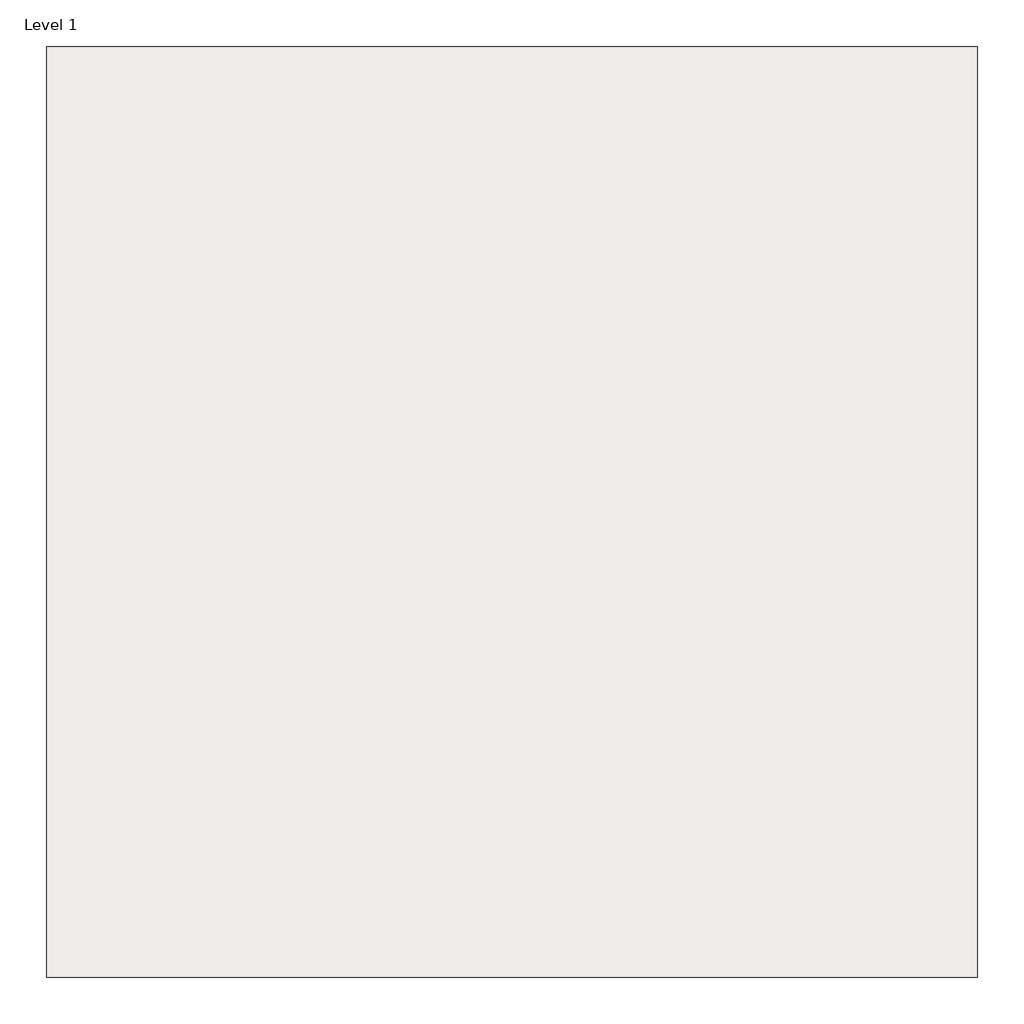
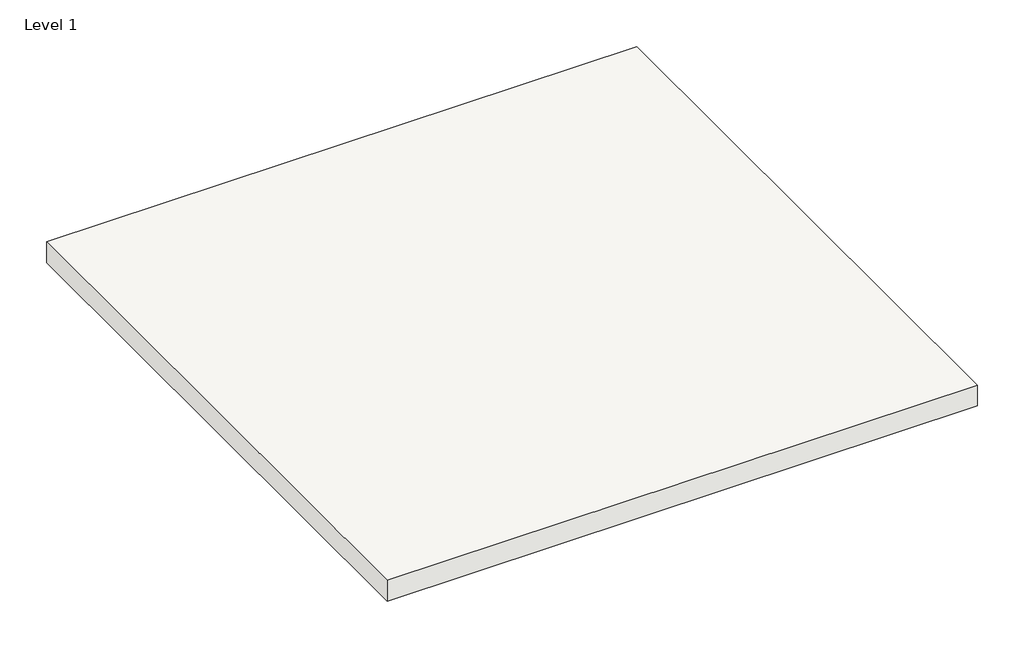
# One storey: 1 covering.
"""IFC4 building model written with IfcOpenShell, lengths in millimetres."""

import ifcopenshell
import ifcopenshell.guid

model = None  # the IFC model being written
_history = None  # IfcOwnerHistory: only IFC2X3 demands one
_inside = {}  # id of a spatial element -> (the spatial element, [elements in it])
_under = {}  # id of a project, library or spatial element -> (it, [spatial elements below it])
_declared = {}  # id of a project -> (the project, [libraries it declares])
_typed = {}  # id of a type object -> (the type object, [elements of that type])
_made_of = {}  # id of a material, layer set ... -> (it, [elements and type objects made of it])


def new_model(schema):
    """Start an empty IFC model of exactly this schema.

    Asked for "IFC4X3", IfcOpenShell would pick the latest addendum, in which some entities
    have other attributes; the version numbers below select the first issue.
    IFC2X3 requires an IfcOwnerHistory on every rooted entity: one is made here for all.
    """
    global model, _history
    if schema == "IFC4X3":
        model = ifcopenshell.file(schema_version=(4, 3, 0, 0))
    else:
        model = ifcopenshell.file(schema=schema)
    _inside.clear()
    _under.clear()
    _declared.clear()
    _typed.clear()
    _made_of.clear()
    _history = None
    if model.schema == "IFC2X3":
        org = make("IfcOrganization", Name="unknown")
        user = make(
            "IfcPersonAndOrganization",
            ThePerson=make("IfcPerson", FamilyName="unknown"),
            TheOrganization=org,
        )
        app = make(
            "IfcApplication",
            ApplicationDeveloper=org,
            Version="unknown",
            ApplicationFullName="unknown",
            ApplicationIdentifier="unknown",
        )
        _history = make(
            "IfcOwnerHistory",
            OwningUser=user,
            OwningApplication=app,
            ChangeAction="ADDED",
            CreationDate=0,
        )
    return model


def make(cls, **values):
    """One entity of the class cls with the attributes given. An attribute that is None is left unset."""
    return model.create_entity(
        cls, **{name: value for name, value in values.items() if value is not None}
    )


def rooted(cls, **values):
    """An entity with a GlobalId (a new one), such as an element, a storey or a relation."""
    return make(cls, GlobalId=ifcopenshell.guid.new(), OwnerHistory=_history, **values)


def si_unit(unit_type, name, prefix=None):
    """IfcSIUnit, for example si_unit("LENGTHUNIT", "METRE", prefix="MILLI")."""
    return make("IfcSIUnit", UnitType=unit_type, Prefix=prefix, Name=name)


def assignment(units):
    """IfcUnitAssignment: the units of a project."""
    return None if units is None else make("IfcUnitAssignment", Units=units)


def point(xyz):
    """IfcCartesianPoint."""
    return None if xyz is None else make("IfcCartesianPoint", Coordinates=xyz)


def direction(xyz):
    """IfcDirection."""
    return None if xyz is None else make("IfcDirection", DirectionRatios=xyz)


def frame(location, z_axis=None, x_axis=None):
    """IfcAxis2Placement3D, a coordinate frame: its origin and axes. An axis left out is left unset."""
    return make(
        "IfcAxis2Placement3D",
        Location=point(location),
        Axis=direction(z_axis),
        RefDirection=direction(x_axis),
    )


def origin():
    """The frame at (0, 0, 0) with its axes left unset."""
    return frame((0.0, 0.0, 0.0))


def origin_with_axes():
    """The frame at (0, 0, 0) with the z axis (0, 0, 1) and the x axis (1, 0, 0) written out."""
    return frame((0.0, 0.0, 0.0), z_axis=(0.0, 0.0, 1.0), x_axis=(1.0, 0.0, 0.0))


def place(relative_to, where):
    """IfcLocalPlacement: puts the frame where relative to a parent placement (None: the world)."""
    return make(
        "IfcLocalPlacement", PlacementRelTo=relative_to, RelativePlacement=where
    )


def context(
    kind, dimensions, precision=None, world=None, true_north=None, identifier=None
):
    """IfcGeometricRepresentationContext, for example the 3D "Model" context."""
    return make(
        "IfcGeometricRepresentationContext",
        ContextIdentifier=identifier,
        ContextType=kind,
        CoordinateSpaceDimension=dimensions,
        Precision=precision,
        WorldCoordinateSystem=world,
        TrueNorth=true_north,
    )


def project(units=None, contexts=None):
    """IfcProject with its units and contexts."""
    return rooted(
        "IfcProject",
        Name="project",
        RepresentationContexts=contexts,
        UnitsInContext=assignment(units),
    )


def spatial(cls, under=None, at=None, **own):
    """A site, building, storey or space (cls), placed at a placement, below another one or the project."""
    s = rooted(cls, ObjectPlacement=at, **own)
    if under is not None:
        _under.setdefault(under.id(), (under, []))[1].append(s)
    return s


def polyline(points):
    """IfcPolyline through the points."""
    return make("IfcPolyline", Points=[point(p) for p in points])


def outline(outer, holes=None, kind="AREA"):
    """IfcArbitraryClosedProfileDef: a profile drawn as a closed curve; with holes, ...WithVoids."""
    if holes is None:
        return make("IfcArbitraryClosedProfileDef", ProfileType=kind, OuterCurve=outer)
    return make(
        "IfcArbitraryProfileDefWithVoids",
        ProfileType=kind,
        OuterCurve=outer,
        InnerCurves=holes,
    )


def extrude(swept, where, along, depth):
    """IfcExtrudedAreaSolid: the profile swept, set in the frame where, extruded along a direction by depth."""
    return make(
        "IfcExtrudedAreaSolid",
        SweptArea=swept,
        Position=where,
        ExtrudedDirection=direction(along),
        Depth=depth,
    )


def shape(context_of_items, identifier, shape_type, items):
    """IfcShapeRepresentation: the items that make up one representation, for example the "Body"."""
    return make(
        "IfcShapeRepresentation",
        ContextOfItems=context_of_items,
        RepresentationIdentifier=identifier,
        RepresentationType=shape_type,
        Items=items,
    )


def made_of(thing, what):
    """Note that an element or type object is made of a material, layer set ...; save() writes the relation."""
    if what is not None:
        _made_of.setdefault(what.id(), (what, []))[1].append(thing)
    return thing


def element(
    cls,
    number,
    at=None,
    inside=None,
    cuts=None,
    type_object=None,
    material=None,
    context=None,
    identifier="Body",
    shape_type=None,
    held_by="IfcProductDefinitionShape",
    body=None,
    shapes=None,
    **own,
):
    """One element of the class cls, such as IfcWall. Its Tag is "e" and its number.

    at: its placement. inside: the storey or other place that contains it. cuts: it is an
    opening in that element (IfcRelVoidsElement). A single representation is given by context,
    identifier, shape_type and body (its items); several are given by shapes. held_by: the class
    of the entity that holds the representations. save() writes the other relations.
    """
    e = rooted(cls, Tag="e%d" % number, ObjectPlacement=at, **own)
    if body is not None:
        shapes = [shape(context, identifier, shape_type, body)]
    if shapes is not None:
        e.Representation = make(held_by, Representations=shapes)
    if inside is not None:
        _inside.setdefault(inside.id(), (inside, []))[1].append(e)
    if cuts is not None:
        rooted(
            "IfcRelVoidsElement", RelatingBuildingElement=cuts, RelatedOpeningElement=e
        )
    if type_object is not None:
        _typed.setdefault(type_object.id(), (type_object, []))[1].append(e)
    return made_of(e, material)


def aggregate(whole, parts):
    """IfcRelAggregates: a whole, such as a stair, and the parts it consists of."""
    return rooted("IfcRelAggregates", RelatingObject=whole, RelatedObjects=parts)


def save(model, path):
    """Write the relations noted so far, then the file.

    IfcRelAggregates (storeys below a building ...), IfcRelContainedInSpatialStructure (elements
    in a storey), IfcRelDefinesByType, IfcRelAssociatesMaterial and IfcRelDeclares: one each for
    every whole, place, type object, material and project.
    """
    for whole, parts in _under.values():
        aggregate(whole, parts)
    for where, things in _inside.values():
        rooted(
            "IfcRelContainedInSpatialStructure",
            RelatedElements=things,
            RelatingStructure=where,
        )
    for kind, things in _typed.values():
        rooted("IfcRelDefinesByType", RelatedObjects=things, RelatingType=kind)
    for what, things in _made_of.values():
        rooted("IfcRelAssociatesMaterial", RelatedObjects=things, RelatingMaterial=what)
    for by, libraries in _declared.values():
        rooted("IfcRelDeclares", RelatingContext=by, RelatedDefinitions=libraries)
    model.write(path)


model = new_model("IFC4")

# Units and contexts
model_context = context("Model", 3, world=origin())
ifc_project = project(units=[si_unit("LENGTHUNIT", "METRE", prefix="MILLI")], contexts=[model_context])

# Site, building, storey
site = spatial("IfcSite", under=ifc_project)
building = spatial("IfcBuilding", under=site)
storey = spatial("IfcBuildingStorey", under=building, Name="Level 1", Elevation=0.0)

# Covering
placement = place(None, origin())
element("IfcCovering", 1, ObjectType="RIGIPS - 4.07.54 - PLANK LINE 8", at=placement, inside=storey, context=model_context, shape_type="SweptSolid", body=[
    extrude(outline(polyline([(-1500.0, 1500.0), (1500.0, 1500.0), (1500.0, -1500.0), (-1500.0, -1500.0), (-1500.0, 1500.0)])), origin_with_axes(), (0.0, 0.0, 1.0), 112.5),
])

save(model, "model.ifc")
